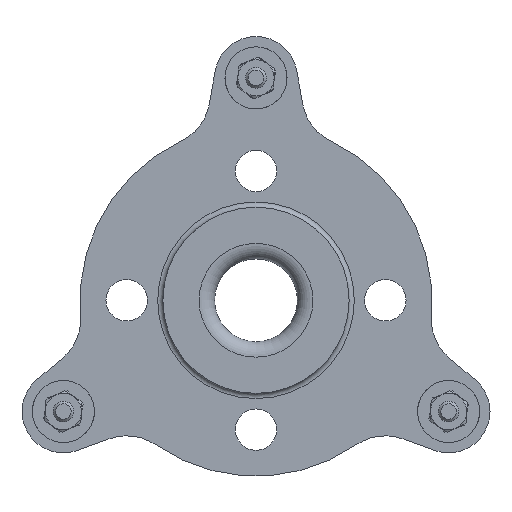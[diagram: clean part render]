
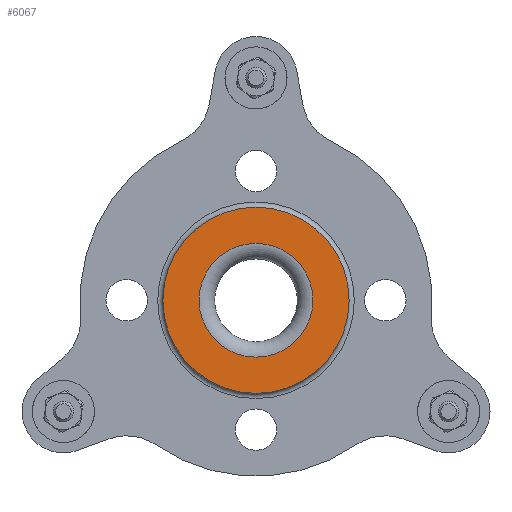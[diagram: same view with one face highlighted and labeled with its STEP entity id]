
A CAD part, front view. The second image highlights one B-rep face of the part: STEP entity #6067.
In plain terms, the highlighted planar face has unit normal (0, -1, 0).
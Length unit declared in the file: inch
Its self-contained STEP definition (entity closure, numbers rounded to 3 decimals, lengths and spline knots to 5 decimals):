
#664=PLANE('',#6746);
#1124=FACE_BOUND('',#2000,.T.);
#1418=FACE_OUTER_BOUND('',#1999,.T.);
#1999=EDGE_LOOP('',(#4842));
#2000=EDGE_LOOP('',(#4843));
#2513=CIRCLE('',#6745,1.125);
#2514=CIRCLE('',#6747,0.6875);
#2972=VERTEX_POINT('',#10035);
#2973=VERTEX_POINT('',#10038);
#3635=EDGE_CURVE('',#2972,#2972,#2513,.T.);
#3636=EDGE_CURVE('',#2973,#2973,#2514,.T.);
#4842=ORIENTED_EDGE('',*,*,#3635,.T.);
#4843=ORIENTED_EDGE('',*,*,#3636,.F.);
#6067=ADVANCED_FACE('',(#1418,#1124),#664,.T.);
#6745=AXIS2_PLACEMENT_3D('',#10036,#8102,#8103);
#6746=AXIS2_PLACEMENT_3D('',#10037,#8104,#8105);
#6747=AXIS2_PLACEMENT_3D('',#10039,#8106,#8107);
#8102=DIRECTION('center_axis',(0.,-1.,0.));
#8103=DIRECTION('ref_axis',(-1.,0.,0.));
#8104=DIRECTION('center_axis',(0.,-1.,0.));
#8105=DIRECTION('ref_axis',(-1.,0.,0.));
#8106=DIRECTION('center_axis',(0.,-1.,0.));
#8107=DIRECTION('ref_axis',(-1.,0.,0.));
#10035=CARTESIAN_POINT('',(2.82904,-0.5,-1.125));
#10036=CARTESIAN_POINT('Origin',(2.82904,-0.5,0.));
#10037=CARTESIAN_POINT('Origin',(2.82904,-0.5,-0.6875));
#10038=CARTESIAN_POINT('',(2.82904,-0.5,-0.6875));
#10039=CARTESIAN_POINT('Origin',(2.82904,-0.5,0.));
